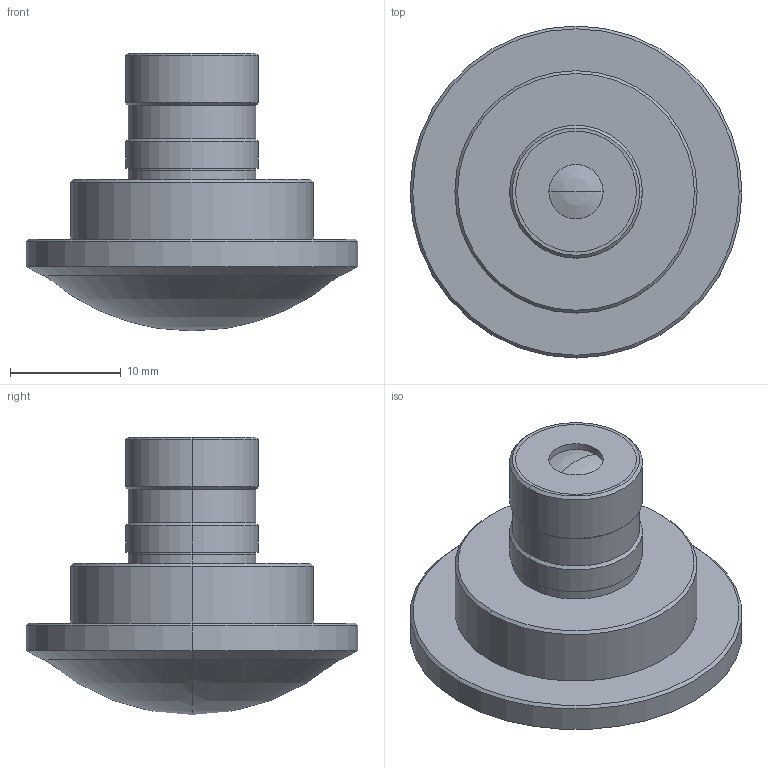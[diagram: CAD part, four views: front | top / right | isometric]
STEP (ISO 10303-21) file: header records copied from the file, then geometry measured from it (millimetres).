
FILE_DESCRIPTION(/* description */ ('VariCAD 2010-1.04 AP-203'),/* implementation_level */ '2;1');
FILE_NAME(/* name */ '0353-70-53',/* time_stamp */ '2010-01-13T15:11:14-07:00',/* author */ (''),/* organization */ (''),/* preprocessor_version */ 'ST-DEVELOPER v12',/* originating_system */ 'VariCAD 2010-1.04; kernel version (20090520)',/* authorisation */ '');
FILE_SCHEMA (('CONFIG_CONTROL_DESIGN'));
Length unit declared in the file: millimetre
Products named in the file (1): Part
Bounding box: 30 x 30 x 25.1 mm (x, y, z)
Volume: 7002.8 mm3; surface area: 3295 mm2
Topology: 2 solids, 2 shells, 44 faces, 90 edges, 52 vertices
Faces by surface type: cylinder 20, cone 12, plane 8, sphere 4
Entity records: 1190 total; most frequent: DIRECTION 234, CARTESIAN_POINT 185, ORIENTED_EDGE 172, AXIS2_PLACEMENT_3D 101, EDGE_CURVE 86, CIRCLE 54, EDGE_LOOP 52, VERTEX_POINT 52
